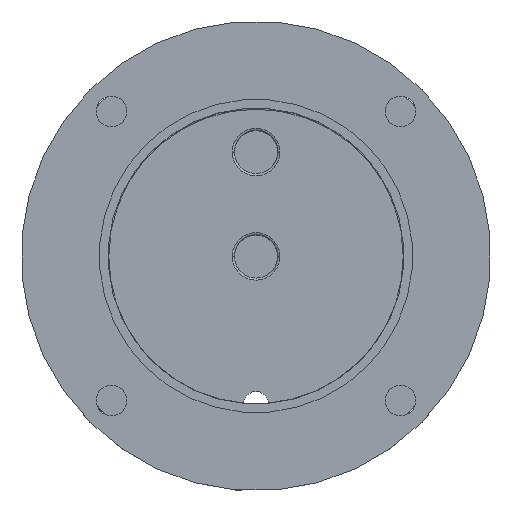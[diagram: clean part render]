
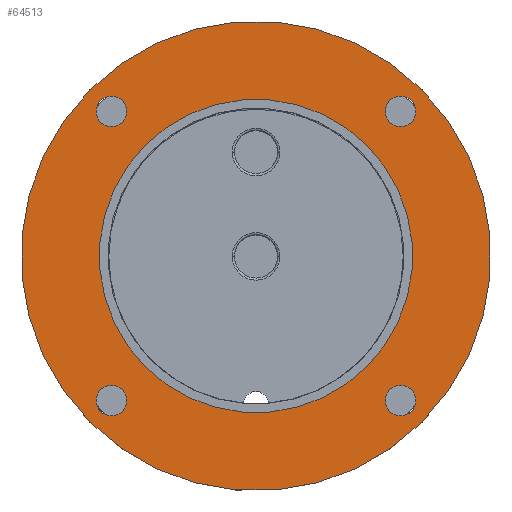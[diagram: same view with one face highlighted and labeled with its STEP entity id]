
A CAD part, top view. The second image highlights one B-rep face of the part: STEP entity #64513.
In plain terms, the highlighted planar face has unit normal (0, 0, 1).
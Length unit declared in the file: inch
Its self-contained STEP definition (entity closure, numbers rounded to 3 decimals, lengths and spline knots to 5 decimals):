
#222 = VERTEX_POINT ( 'NONE', #74893 ) ;
#300 = FACE_BOUND ( 'NONE', #24371, .T. ) ;
#338 = VERTEX_POINT ( 'NONE', #65668 ) ;
#684 = DIRECTION ( 'NONE',  ( -0.707, 0.707, 0. ) ) ;
#1067 = FACE_BOUND ( 'NONE', #70688, .T. ) ;
#1506 = DIRECTION ( 'NONE',  ( 0.707, -0.707, 0. ) ) ;
#2525 = AXIS2_PLACEMENT_3D ( 'NONE', #10325, #3510, #22719 ) ;
#2619 = EDGE_CURVE ( 'NONE', #30942, #78071, #73918, .T. ) ;
#3285 = ORIENTED_EDGE ( 'NONE', *, *, #23937, .F. ) ;
#3510 = DIRECTION ( 'NONE',  ( 0., 0., 1. ) ) ;
#3996 = AXIS2_PLACEMENT_3D ( 'NONE', #43503, #67536, #684 ) ;
#5001 = CARTESIAN_POINT ( 'NONE',  ( -0.04011, 1.80269, 7.91204 ) ) ;
#5492 = FACE_BOUND ( 'NONE', #69450, .T. ) ;
#5642 = EDGE_LOOP ( 'NONE', ( #69077, #58722 ) ) ;
#6269 = AXIS2_PLACEMENT_3D ( 'NONE', #5001, #53873, #48930 ) ;
#7395 = AXIS2_PLACEMENT_3D ( 'NONE', #34732, #9110, #16704 ) ;
#7665 = DIRECTION ( 'NONE',  ( -0.707, 0.707, 0. ) ) ;
#7729 = VERTEX_POINT ( 'NONE', #40028 ) ;
#8280 = CARTESIAN_POINT ( 'NONE',  ( -0.04011, -2.35156, 7.91204 ) ) ;
#8563 = CARTESIAN_POINT ( 'NONE',  ( -4.03968, 1.64801, 7.91204 ) ) ;
#8923 = CIRCLE ( 'NONE', #2525, 0.21875 ) ;
#9110 = DIRECTION ( 'NONE',  ( 0., 0., 1. ) ) ;
#9402 = CARTESIAN_POINT ( 'NONE',  ( -4.03968, -2.50624, 7.91204 ) ) ;
#9619 = VERTEX_POINT ( 'NONE', #8563 ) ;
#9625 = DIRECTION ( 'NONE',  ( 0.707, -0.707, 0. ) ) ;
#10287 = CARTESIAN_POINT ( 'NONE',  ( -2.11723, -0.27444, 7.91204 ) ) ;
#10325 = CARTESIAN_POINT ( 'NONE',  ( -0.04011, -2.35156, 7.91204 ) ) ;
#11063 = DIRECTION ( 'NONE',  ( -0.707, 0.707, 0. ) ) ;
#11075 = ORIENTED_EDGE ( 'NONE', *, *, #66814, .T. ) ;
#11857 = DIRECTION ( 'NONE',  ( -0.707, 0.707, 0. ) ) ;
#12270 = FACE_OUTER_BOUND ( 'NONE', #5642, .T. ) ;
#12800 = CARTESIAN_POINT ( 'NONE',  ( -2.11723, -0.27444, 7.91204 ) ) ;
#14783 = CIRCLE ( 'NONE', #69779, 3.375 ) ;
#14853 = EDGE_CURVE ( 'NONE', #28136, #9619, #15084, .T. ) ;
#15034 = VERTEX_POINT ( 'NONE', #31279 ) ;
#15084 = CIRCLE ( 'NONE', #49607, 0.21875 ) ;
#15309 = ORIENTED_EDGE ( 'NONE', *, *, #22529, .F. ) ;
#15795 = DIRECTION ( 'NONE',  ( 0., 0., 1. ) ) ;
#16489 = DIRECTION ( 'NONE',  ( 0., 0., 1. ) ) ;
#16704 = DIRECTION ( 'NONE',  ( -0.707, 0.707, 0. ) ) ;
#17444 = DIRECTION ( 'NONE',  ( 0., 0., 1. ) ) ;
#17470 = EDGE_CURVE ( 'NONE', #69980, #33439, #8923, .T. ) ;
#17644 = CARTESIAN_POINT ( 'NONE',  ( 0.11457, -2.50624, 7.91204 ) ) ;
#17887 = FACE_BOUND ( 'NONE', #66908, .T. ) ;
#18706 = CARTESIAN_POINT ( 'NONE',  ( -0.19478, 1.95737, 7.91204 ) ) ;
#19123 = CIRCLE ( 'NONE', #70295, 2.2505 ) ;
#22061 = CIRCLE ( 'NONE', #60438, 2.2505 ) ;
#22529 = EDGE_CURVE ( 'NONE', #33439, #69980, #76400, .T. ) ;
#22719 = DIRECTION ( 'NONE',  ( 0.707, -0.707, 0. ) ) ;
#23937 = EDGE_CURVE ( 'NONE', #9619, #28136, #29037, .T. ) ;
#24371 = EDGE_LOOP ( 'NONE', ( #74426, #15309 ) ) ;
#28136 = VERTEX_POINT ( 'NONE', #63591 ) ;
#28589 = AXIS2_PLACEMENT_3D ( 'NONE', #10287, #29105, #11063 ) ;
#28907 = DIRECTION ( 'NONE',  ( 0.707, -0.707, 0. ) ) ;
#29037 = CIRCLE ( 'NONE', #54566, 0.21875 ) ;
#29105 = DIRECTION ( 'NONE',  ( 0., 0., -1. ) ) ;
#30347 = AXIS2_PLACEMENT_3D ( 'NONE', #8280, #32703, #1506 ) ;
#30942 = VERTEX_POINT ( 'NONE', #54626 ) ;
#31279 = CARTESIAN_POINT ( 'NONE',  ( -3.70858, 1.31691, 7.91204 ) ) ;
#31458 = EDGE_CURVE ( 'NONE', #7729, #57472, #14783, .T. ) ;
#32424 = EDGE_CURVE ( 'NONE', #74575, #222, #60209, .T. ) ;
#32703 = DIRECTION ( 'NONE',  ( 0., 0., 1. ) ) ;
#32879 = DIRECTION ( 'NONE',  ( 0., 0., -1. ) ) ;
#33439 = VERTEX_POINT ( 'NONE', #43975 ) ;
#34732 = CARTESIAN_POINT ( 'NONE',  ( -4.19436, -2.35156, 7.91204 ) ) ;
#36036 = EDGE_LOOP ( 'NONE', ( #3285, #76362 ) ) ;
#37036 = DIRECTION ( 'NONE',  ( 0., 0., -1. ) ) ;
#37235 = DIRECTION ( 'NONE',  ( -0.707, 0.707, 0. ) ) ;
#38857 = ORIENTED_EDGE ( 'NONE', *, *, #68301, .F. ) ;
#39813 = EDGE_CURVE ( 'NONE', #15034, #338, #19123, .T. ) ;
#40028 = CARTESIAN_POINT ( 'NONE',  ( 0.26925, -2.66092, 7.91204 ) ) ;
#40210 = CARTESIAN_POINT ( 'NONE',  ( -4.19436, 1.80269, 7.91204 ) ) ;
#41903 = PLANE ( 'NONE',  #3996 ) ;
#43503 = CARTESIAN_POINT ( 'NONE',  ( 0.26925, 2.11205, 7.91204 ) ) ;
#43975 = CARTESIAN_POINT ( 'NONE',  ( -0.19478, -2.19688, 7.91204 ) ) ;
#44643 = CIRCLE ( 'NONE', #6269, 0.21875 ) ;
#48930 = DIRECTION ( 'NONE',  ( 0.707, -0.707, 0. ) ) ;
#49607 = AXIS2_PLACEMENT_3D ( 'NONE', #71346, #16489, #28907 ) ;
#49756 = ORIENTED_EDGE ( 'NONE', *, *, #39813, .T. ) ;
#50136 = AXIS2_PLACEMENT_3D ( 'NONE', #55094, #17444, #11857 ) ;
#52723 = CARTESIAN_POINT ( 'NONE',  ( -4.50372, 2.11205, 7.91204 ) ) ;
#53750 = ORIENTED_EDGE ( 'NONE', *, *, #61137, .F. ) ;
#53873 = DIRECTION ( 'NONE',  ( 0., 0., 1. ) ) ;
#54566 = AXIS2_PLACEMENT_3D ( 'NONE', #40210, #15795, #71027 ) ;
#54626 = CARTESIAN_POINT ( 'NONE',  ( -4.34904, -2.19688, 7.91204 ) ) ;
#55094 = CARTESIAN_POINT ( 'NONE',  ( -4.19436, -2.35156, 7.91204 ) ) ;
#57098 = ORIENTED_EDGE ( 'NONE', *, *, #2619, .F. ) ;
#57472 = VERTEX_POINT ( 'NONE', #52723 ) ;
#58722 = ORIENTED_EDGE ( 'NONE', *, *, #31458, .F. ) ;
#60209 = CIRCLE ( 'NONE', #64015, 0.21875 ) ;
#60438 = AXIS2_PLACEMENT_3D ( 'NONE', #69061, #37036, #67871 ) ;
#61137 = EDGE_CURVE ( 'NONE', #222, #74575, #44643, .T. ) ;
#62548 = CARTESIAN_POINT ( 'NONE',  ( -2.11723, -0.27444, 7.91204 ) ) ;
#63124 = CIRCLE ( 'NONE', #28589, 3.375 ) ;
#63591 = CARTESIAN_POINT ( 'NONE',  ( -4.34904, 1.95737, 7.91204 ) ) ;
#64015 = AXIS2_PLACEMENT_3D ( 'NONE', #76099, #64517, #9625 ) ;
#64513 = ADVANCED_FACE ( 'NONE', ( #1067, #300, #5492, #74331, #12270, #17887 ), #41903, .F. ) ;
#64517 = DIRECTION ( 'NONE',  ( 0., 0., 1. ) ) ;
#65668 = CARTESIAN_POINT ( 'NONE',  ( -0.52589, -1.86578, 7.91204 ) ) ;
#66814 = EDGE_CURVE ( 'NONE', #338, #15034, #22061, .T. ) ;
#66908 = EDGE_LOOP ( 'NONE', ( #49756, #11075 ) ) ;
#67536 = DIRECTION ( 'NONE',  ( 0., 0., -1. ) ) ;
#67871 = DIRECTION ( 'NONE',  ( -0.707, 0.707, 0. ) ) ;
#68301 = EDGE_CURVE ( 'NONE', #78071, #30942, #70760, .T. ) ;
#68844 = DIRECTION ( 'NONE',  ( 0., 0., -1. ) ) ;
#69061 = CARTESIAN_POINT ( 'NONE',  ( -2.11723, -0.27444, 7.91204 ) ) ;
#69077 = ORIENTED_EDGE ( 'NONE', *, *, #70544, .F. ) ;
#69212 = ORIENTED_EDGE ( 'NONE', *, *, #32424, .F. ) ;
#69450 = EDGE_LOOP ( 'NONE', ( #38857, #57098 ) ) ;
#69779 = AXIS2_PLACEMENT_3D ( 'NONE', #62548, #32879, #7665 ) ;
#69980 = VERTEX_POINT ( 'NONE', #17644 ) ;
#70295 = AXIS2_PLACEMENT_3D ( 'NONE', #12800, #68844, #37235 ) ;
#70544 = EDGE_CURVE ( 'NONE', #57472, #7729, #63124, .T. ) ;
#70688 = EDGE_LOOP ( 'NONE', ( #53750, #69212 ) ) ;
#70760 = CIRCLE ( 'NONE', #50136, 0.21875 ) ;
#71027 = DIRECTION ( 'NONE',  ( 0.707, -0.707, 0. ) ) ;
#71346 = CARTESIAN_POINT ( 'NONE',  ( -4.19436, 1.80269, 7.91204 ) ) ;
#73918 = CIRCLE ( 'NONE', #7395, 0.21875 ) ;
#74331 = FACE_BOUND ( 'NONE', #36036, .T. ) ;
#74426 = ORIENTED_EDGE ( 'NONE', *, *, #17470, .F. ) ;
#74575 = VERTEX_POINT ( 'NONE', #18706 ) ;
#74893 = CARTESIAN_POINT ( 'NONE',  ( 0.11457, 1.64801, 7.91204 ) ) ;
#76099 = CARTESIAN_POINT ( 'NONE',  ( -0.04011, 1.80269, 7.91204 ) ) ;
#76362 = ORIENTED_EDGE ( 'NONE', *, *, #14853, .F. ) ;
#76400 = CIRCLE ( 'NONE', #30347, 0.21875 ) ;
#78071 = VERTEX_POINT ( 'NONE', #9402 ) ;
